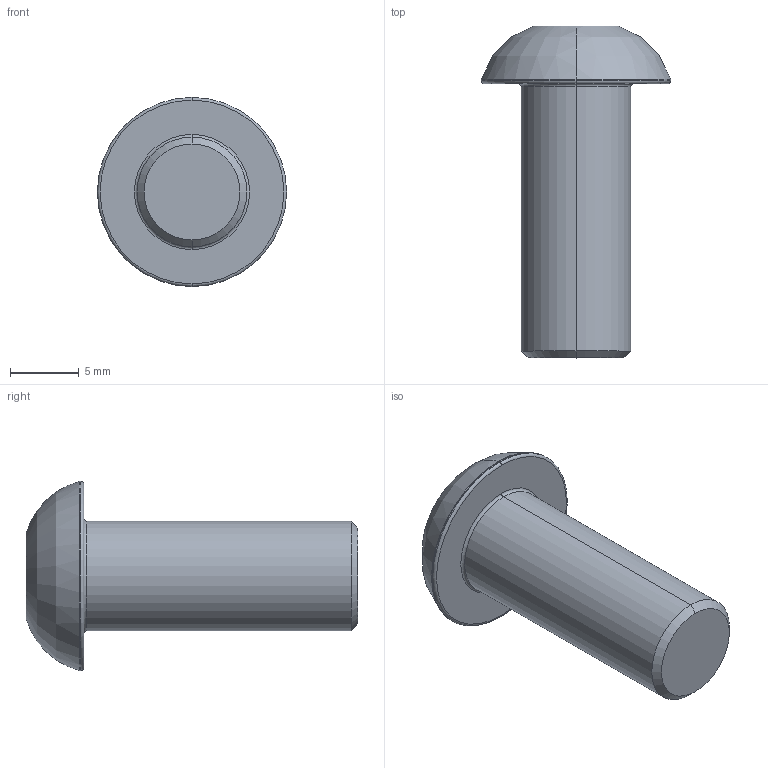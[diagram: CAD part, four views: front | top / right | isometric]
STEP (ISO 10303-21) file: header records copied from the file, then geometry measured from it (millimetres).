
FILE_DESCRIPTION (( 'STEP AP203' ), '1' );
FILE_NAME ('LGDD-TD-M8x20.STEP', '2026-08-14T02:02:11', ( '' ), ( '' ), 'SwSTEP 2.0', 'SolidWorks 2020', '' );
FILE_SCHEMA (( 'CONFIG_CONTROL_DESIGN' ));
Length unit declared in the file: millimetre
Products named in the file (1): LGDD-TD-M8x20
Bounding box: 13.8 x 24.2 x 13.8 mm (x, y, z)
Volume: 1378.9 mm3; surface area: 932.6 mm2
Topology: 1 solids, 1 shells, 31 faces, 59 edges, 32 vertices
Faces by surface type: plane 10, cone 9, torus 8, cylinder 4
Entity records: 860 total; most frequent: CARTESIAN_POINT 150, DIRECTION 149, ORIENTED_EDGE 118, AXIS2_PLACEMENT_3D 65, EDGE_CURVE 59, CIRCLE 33, EDGE_LOOP 33, VERTEX_POINT 32
